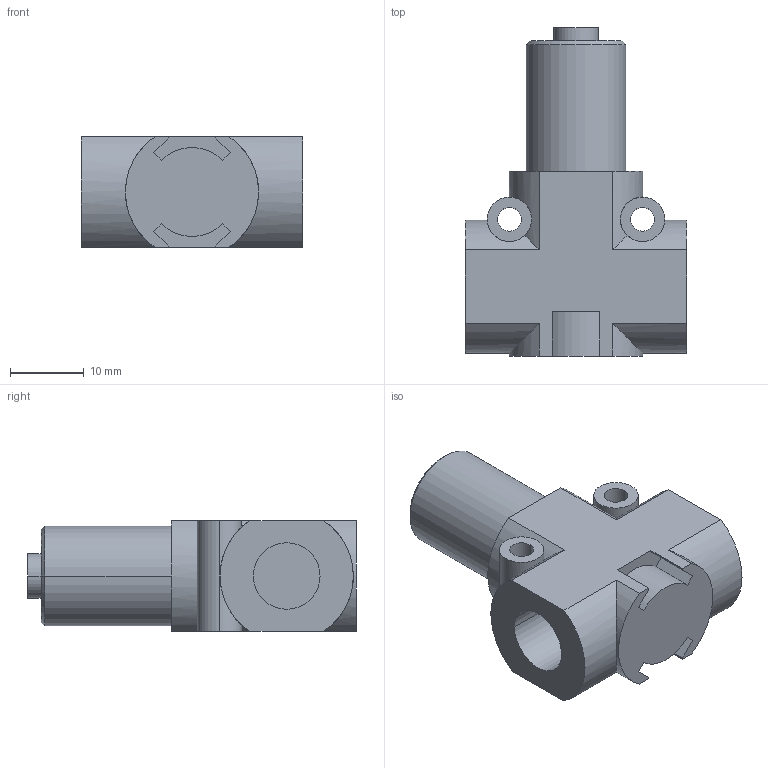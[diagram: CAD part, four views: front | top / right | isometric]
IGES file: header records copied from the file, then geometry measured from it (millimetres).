
Global section: file name: No Iges File Name specified; native system: Autodesk Inventor 2009; preprocessor: AutoDesk Inventor Iges Exporter R2009; author: rivolro1; date: 20090430.143916; units: millimetre
Bounding box: 30 x 44.4 x 15 mm (x, y, z)
Volume: 11124.3 mm3; surface area: 4907.2 mm2
Topology: 2 solids, 2 shells, 64 faces, 164 edges, 107 vertices
Faces by surface type: plane 21, bspline 18, cylinder 17, revolution 6, cone 2
